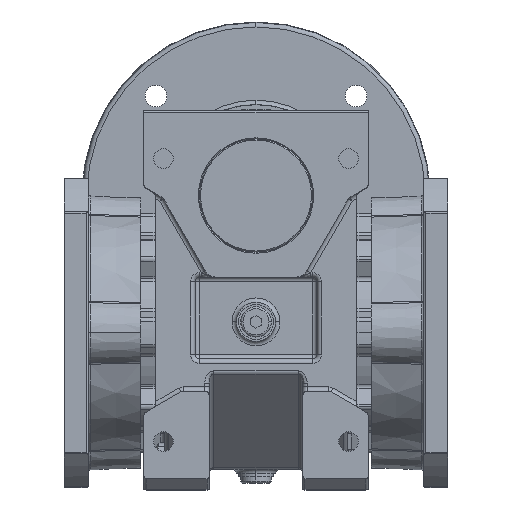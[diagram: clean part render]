
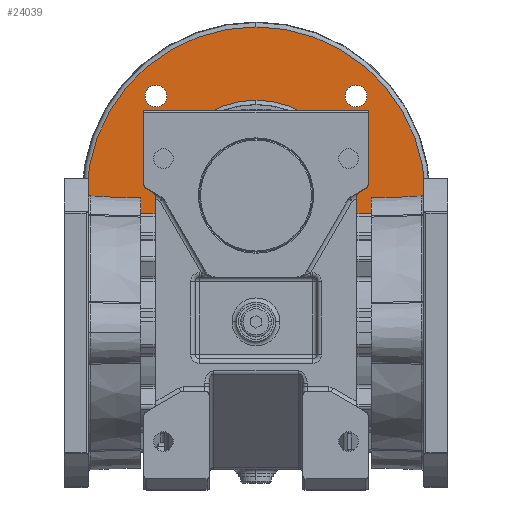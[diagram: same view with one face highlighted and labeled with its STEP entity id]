
A CAD part, top view. The second image highlights one B-rep face of the part: STEP entity #24039.
In plain terms, the highlighted planar face has unit normal (0, 0, 1).
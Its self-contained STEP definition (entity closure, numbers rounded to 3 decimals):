
#377 = AXIS2_PLACEMENT_3D ( 'NONE', #77843, #57980, #10491 ) ;
#502 = AXIS2_PLACEMENT_3D ( 'NONE', #85523, #85807, #18822 ) ;
#939 = ORIENTED_EDGE ( 'NONE', *, *, #4061, .T. ) ;
#957 = CARTESIAN_POINT ( 'NONE',  ( 0., 0., 10. ) ) ;
#2543 = VERTEX_POINT ( 'NONE', #17551 ) ;
#3149 = VERTEX_POINT ( 'NONE', #33461 ) ;
#4061 = EDGE_CURVE ( 'NONE', #16873, #52550, #57596, .T. ) ;
#4599 = AXIS2_PLACEMENT_3D ( 'NONE', #957, #54584, #68041 ) ;
#4645 = CIRCLE ( 'NONE', #53753, 77.719 ) ;
#5533 = CIRCLE ( 'NONE', #377, 5. ) ;
#5842 = CARTESIAN_POINT ( 'NONE',  ( -45.962, -45.962, 10. ) ) ;
#5850 = AXIS2_PLACEMENT_3D ( 'NONE', #5842, #19359, #58346 ) ;
#8360 = ORIENTED_EDGE ( 'NONE', *, *, #60737, .F. ) ;
#8899 = CARTESIAN_POINT ( 'NONE',  ( -50.962, -45.962, 10. ) ) ;
#8916 = ORIENTED_EDGE ( 'NONE', *, *, #47716, .T. ) ;
#10354 = AXIS2_PLACEMENT_3D ( 'NONE', #40721, #60060, #86316 ) ;
#10491 = DIRECTION ( 'NONE',  ( 1., 0., 0. ) ) ;
#11428 = CARTESIAN_POINT ( 'NONE',  ( 0., 0., 10. ) ) ;
#11666 = EDGE_CURVE ( 'NONE', #79792, #62899, #45430, .T. ) ;
#11964 = EDGE_LOOP ( 'NONE', ( #8360, #18782 ) ) ;
#12969 = AXIS2_PLACEMENT_3D ( 'NONE', #79508, #85645, #26253 ) ;
#14696 = CARTESIAN_POINT ( 'NONE',  ( -50.962, 45.962, 10. ) ) ;
#14868 = CARTESIAN_POINT ( 'NONE',  ( 50.962, 45.962, 10. ) ) ;
#15807 = ORIENTED_EDGE ( 'NONE', *, *, #34537, .T. ) ;
#16873 = VERTEX_POINT ( 'NONE', #56597 ) ;
#17551 = CARTESIAN_POINT ( 'NONE',  ( 40.962, -45.962, 10. ) ) ;
#17801 = CARTESIAN_POINT ( 'NONE',  ( 77.719, 0., 10. ) ) ;
#18423 = ORIENTED_EDGE ( 'NONE', *, *, #84372, .T. ) ;
#18782 = ORIENTED_EDGE ( 'NONE', *, *, #11666, .F. ) ;
#18822 = DIRECTION ( 'NONE',  ( 1., 0., 0. ) ) ;
#19359 = DIRECTION ( 'NONE',  ( 0., 0., -1. ) ) ;
#20038 = EDGE_LOOP ( 'NONE', ( #18423, #8916 ) ) ;
#20983 = DIRECTION ( 'NONE',  ( 0., 0., -1. ) ) ;
#21250 = ORIENTED_EDGE ( 'NONE', *, *, #83733, .T. ) ;
#21446 = ORIENTED_EDGE ( 'NONE', *, *, #67639, .T. ) ;
#21840 = DIRECTION ( 'NONE',  ( -1., 0., 0. ) ) ;
#24039 = ADVANCED_FACE ( 'NONE', ( #81146, #58094, #56015, #63382, #76952, #45598 ), #68617, .T. ) ;
#25285 = AXIS2_PLACEMENT_3D ( 'NONE', #46833, #20983, #27479 ) ;
#25726 = CARTESIAN_POINT ( 'NONE',  ( 44.106, 0., 10. ) ) ;
#26253 = DIRECTION ( 'NONE',  ( 1., 0., 0. ) ) ;
#27479 = DIRECTION ( 'NONE',  ( 1., 0., 0. ) ) ;
#27940 = DIRECTION ( 'NONE',  ( 1., 0., 0. ) ) ;
#28850 = ORIENTED_EDGE ( 'NONE', *, *, #51730, .T. ) ;
#29312 = ORIENTED_EDGE ( 'NONE', *, *, #46090, .T. ) ;
#32544 = CARTESIAN_POINT ( 'NONE',  ( 0., 0., 10. ) ) ;
#33461 = CARTESIAN_POINT ( 'NONE',  ( -44.106, 0., 10. ) ) ;
#33918 = EDGE_LOOP ( 'NONE', ( #21446, #55767 ) ) ;
#34033 = CIRCLE ( 'NONE', #12969, 5. ) ;
#34537 = EDGE_CURVE ( 'NONE', #68951, #2543, #61443, .T. ) ;
#34867 = CARTESIAN_POINT ( 'NONE',  ( 45.962, -45.962, 10. ) ) ;
#35532 = CARTESIAN_POINT ( 'NONE',  ( 0., 77.719, 10. ) ) ;
#36421 = AXIS2_PLACEMENT_3D ( 'NONE', #34867, #74919, #68229 ) ;
#38118 = EDGE_CURVE ( 'NONE', #49726, #46939, #46249, .T. ) ;
#39018 = DIRECTION ( 'NONE',  ( 0., 0., -1. ) ) ;
#40721 = CARTESIAN_POINT ( 'NONE',  ( -45.962, 45.962, 10. ) ) ;
#41717 = DIRECTION ( 'NONE',  ( 0., 0., 1. ) ) ;
#42961 = CARTESIAN_POINT ( 'NONE',  ( 40.962, 45.962, 10. ) ) ;
#45430 = CIRCLE ( 'NONE', #45484, 77.719 ) ;
#45484 = AXIS2_PLACEMENT_3D ( 'NONE', #75122, #75698, #21840 ) ;
#45598 = FACE_OUTER_BOUND ( 'NONE', #11964, .T. ) ;
#46033 = DIRECTION ( 'NONE',  ( -1., 0., 0. ) ) ;
#46090 = EDGE_CURVE ( 'NONE', #2543, #68951, #85141, .T. ) ;
#46249 = CIRCLE ( 'NONE', #502, 5. ) ;
#46833 = CARTESIAN_POINT ( 'NONE',  ( -45.962, -45.962, 10. ) ) ;
#46939 = VERTEX_POINT ( 'NONE', #42961 ) ;
#47285 = ORIENTED_EDGE ( 'NONE', *, *, #38118, .T. ) ;
#47716 = EDGE_CURVE ( 'NONE', #76197, #3149, #77139, .T. ) ;
#49726 = VERTEX_POINT ( 'NONE', #14868 ) ;
#50774 = CARTESIAN_POINT ( 'NONE',  ( 50.962, -45.962, 10. ) ) ;
#51576 = DIRECTION ( 'NONE',  ( -1., 0., 0. ) ) ;
#51730 = EDGE_CURVE ( 'NONE', #52550, #16873, #64968, .T. ) ;
#52550 = VERTEX_POINT ( 'NONE', #8899 ) ;
#53753 = AXIS2_PLACEMENT_3D ( 'NONE', #11428, #65904, #51576 ) ;
#54584 = DIRECTION ( 'NONE',  ( 0., 0., -1. ) ) ;
#55767 = ORIENTED_EDGE ( 'NONE', *, *, #78842, .T. ) ;
#56015 = FACE_BOUND ( 'NONE', #33918, .T. ) ;
#56597 = CARTESIAN_POINT ( 'NONE',  ( -40.962, -45.962, 10. ) ) ;
#56614 = AXIS2_PLACEMENT_3D ( 'NONE', #65804, #58533, #65239 ) ;
#57596 = CIRCLE ( 'NONE', #25285, 5. ) ;
#57980 = DIRECTION ( 'NONE',  ( 0., 0., -1. ) ) ;
#58094 = FACE_BOUND ( 'NONE', #74255, .T. ) ;
#58346 = DIRECTION ( 'NONE',  ( 1., 0., 0. ) ) ;
#58533 = DIRECTION ( 'NONE',  ( 0., 0., -1. ) ) ;
#60060 = DIRECTION ( 'NONE',  ( 0., 0., -1. ) ) ;
#60552 = EDGE_LOOP ( 'NONE', ( #28850, #939 ) ) ;
#60737 = EDGE_CURVE ( 'NONE', #62899, #79792, #4645, .T. ) ;
#61443 = CIRCLE ( 'NONE', #56614, 5. ) ;
#62899 = VERTEX_POINT ( 'NONE', #83365 ) ;
#63382 = FACE_BOUND ( 'NONE', #71729, .T. ) ;
#63472 = AXIS2_PLACEMENT_3D ( 'NONE', #32544, #39018, #46033 ) ;
#64968 = CIRCLE ( 'NONE', #5850, 5. ) ;
#65239 = DIRECTION ( 'NONE',  ( 1., 0., 0. ) ) ;
#65804 = CARTESIAN_POINT ( 'NONE',  ( 45.962, -45.962, 10. ) ) ;
#65904 = DIRECTION ( 'NONE',  ( 0., 0., -1. ) ) ;
#67639 = EDGE_CURVE ( 'NONE', #85241, #75395, #5533, .T. ) ;
#68041 = DIRECTION ( 'NONE',  ( -1., 0., 0. ) ) ;
#68229 = DIRECTION ( 'NONE',  ( 1., 0., 0. ) ) ;
#68617 = PLANE ( 'NONE',  #77564 ) ;
#68951 = VERTEX_POINT ( 'NONE', #50774 ) ;
#70716 = CARTESIAN_POINT ( 'NONE',  ( -40.962, 45.962, 10. ) ) ;
#71729 = EDGE_LOOP ( 'NONE', ( #21250, #47285 ) ) ;
#74255 = EDGE_LOOP ( 'NONE', ( #29312, #15807 ) ) ;
#74919 = DIRECTION ( 'NONE',  ( 0., 0., -1. ) ) ;
#75122 = CARTESIAN_POINT ( 'NONE',  ( 0., 0., 10. ) ) ;
#75395 = VERTEX_POINT ( 'NONE', #70716 ) ;
#75698 = DIRECTION ( 'NONE',  ( 0., 0., -1. ) ) ;
#76197 = VERTEX_POINT ( 'NONE', #25726 ) ;
#76952 = FACE_BOUND ( 'NONE', #20038, .T. ) ;
#76984 = CIRCLE ( 'NONE', #10354, 5. ) ;
#77139 = CIRCLE ( 'NONE', #63472, 44.106 ) ;
#77564 = AXIS2_PLACEMENT_3D ( 'NONE', #35532, #41717, #27940 ) ;
#77843 = CARTESIAN_POINT ( 'NONE',  ( -45.962, 45.962, 10. ) ) ;
#78842 = EDGE_CURVE ( 'NONE', #75395, #85241, #76984, .T. ) ;
#79508 = CARTESIAN_POINT ( 'NONE',  ( 45.962, 45.962, 10. ) ) ;
#79792 = VERTEX_POINT ( 'NONE', #17801 ) ;
#81146 = FACE_BOUND ( 'NONE', #60552, .T. ) ;
#83365 = CARTESIAN_POINT ( 'NONE',  ( -77.719, 0., 10. ) ) ;
#83733 = EDGE_CURVE ( 'NONE', #46939, #49726, #34033, .T. ) ;
#84205 = CIRCLE ( 'NONE', #4599, 44.106 ) ;
#84372 = EDGE_CURVE ( 'NONE', #3149, #76197, #84205, .T. ) ;
#85141 = CIRCLE ( 'NONE', #36421, 5. ) ;
#85241 = VERTEX_POINT ( 'NONE', #14696 ) ;
#85523 = CARTESIAN_POINT ( 'NONE',  ( 45.962, 45.962, 10. ) ) ;
#85645 = DIRECTION ( 'NONE',  ( 0., 0., -1. ) ) ;
#85807 = DIRECTION ( 'NONE',  ( 0., 0., -1. ) ) ;
#86316 = DIRECTION ( 'NONE',  ( 1., 0., 0. ) ) ;
